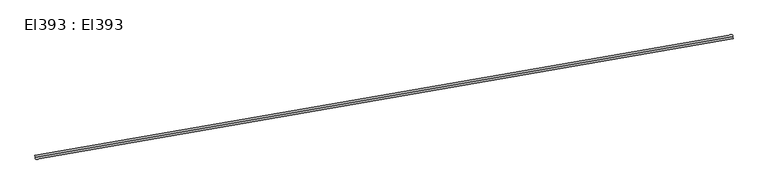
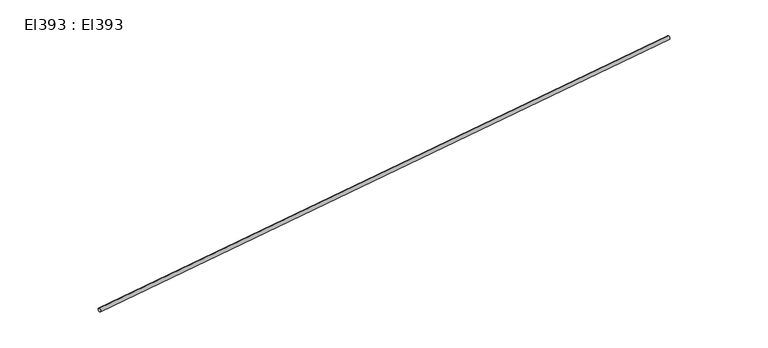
"""IFC4 building model written with IfcOpenShell, lengths in millimetres: cable carrier segment geometry, El393 : El393."""

from ifc_helpers import new_model, si_unit, point, frame, frame_2d, origin, place, context, project, spatial, circle_curve, trimmed, segment, composite_curve, outline, extrude, source, transform, mapped, element, save


def el393_el393_082d9e5b(model_context):
    return source(origin(), model_context, "Body", "SweptSolid", [
        extrude(outline(composite_curve([segment(trimmed(circle_curve(frame_2d((0.0, -9.5)), 9.5), [point((0.0, -19.0))], [point((0.0, 0.0))], False, "CARTESIAN"), True, "CONTINUOUS"), segment(trimmed(circle_curve(frame_2d((0.0, -9.5)), 9.5), [point((0.0, 0.0))], [point((0.0, -19.0))], False, "CARTESIAN"), True, "CONTINUOUS")], self_intersect=False)), frame((7684.2797713, 809.6701366, 9.5), z_axis=(0.9853180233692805, 0.17072900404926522, 0.0), x_axis=(-0.17072900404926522, 0.9853180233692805, 0.0)), (0.0, 0.0, 1.0), 3479.08),
    ])


if __name__ == "__main__":
    model = new_model("IFC4")
    model_context = context("Model", 3, world=origin())
    ifc_project = project(units=[si_unit("LENGTHUNIT", "METRE", prefix="MILLI")], contexts=[model_context])
    site = spatial("IfcSite", under=ifc_project)
    building = spatial("IfcBuilding", under=site)
    placement = place(None, origin())
    el393_el393_shape = el393_el393_082d9e5b(model_context)
    element("IfcCableCarrierSegment", 1, ObjectType="El393 : El393", at=placement, inside=building, context=model_context, shape_type="MappedRepresentation", body=[
        mapped(el393_el393_shape, transform((0.0, 0.0, 0.0), x_axis=(1.0, 0.0, 0.0), y_axis=(0.0, 1.0, 0.0), z_axis=(0.0, 0.0, 1.0))),
    ])
    save(model, "model.ifc")
